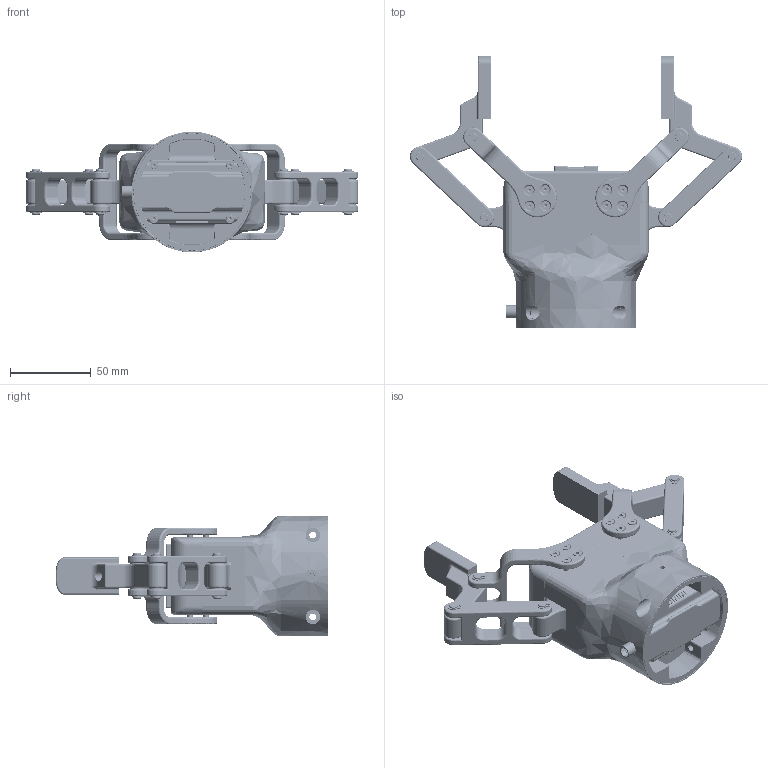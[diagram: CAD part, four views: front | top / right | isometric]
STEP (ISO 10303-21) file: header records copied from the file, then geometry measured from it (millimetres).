
FILE_DESCRIPTION (( 'STEP AP214' ), '1' );
FILE_NAME ('CTM2F110.00_两指模块化手(内嵌控制器版)-20240517外发.STEP', '2024-05-17T06:40:06', ( '' ), ( '' ), 'SwSTEP 2.0', 'SolidWorks 2016', '' );
FILE_SCHEMA (( 'AUTOMOTIVE_DESIGN' ));
Length unit declared in the file: millimetre
Products named in the file (1): CTM2F110.00_两指模块化手(内嵌控制器版)-20240517外发
Bounding box: 206 x 169 x 75 mm (x, y, z)
Surface area: 153374.5 mm2 (no closed solid volume)
Topology: 0 solids, 326 shells, 6164 faces, 15726 edges, 9432 vertices
Faces by surface type: plane 2169, cylinder 1806, bspline 1794, cone 302, torus 90, sphere 3
Entity records: 356720 total; most frequent: CARTESIAN_POINT 216233, ORIENTED_EDGE 29398, DIRECTION 25255, EDGE_CURVE 14705, VERTEX_POINT 9430, AXIS2_PLACEMENT_3D 9101, LINE 7053, VECTOR 7053
